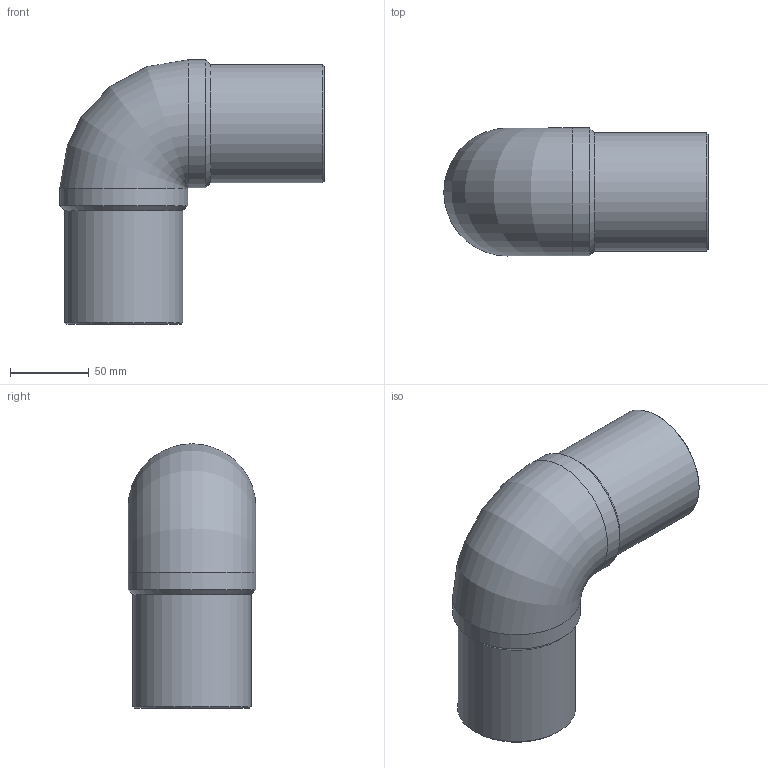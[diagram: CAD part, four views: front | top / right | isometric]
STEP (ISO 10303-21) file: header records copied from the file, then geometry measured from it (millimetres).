
FILE_DESCRIPTION(/* description */ ('Unknown'),/* implementation_level */ '2;1');
FILE_NAME(/* name */ 'G9P075H',/* time_stamp */ '2021-11-15T16:36:55+01:00',/* author */ ('Unknown'),/* organization */ ('Unknown'),/* preprocessor_version */ 'ST-DEVELOPER v16.7',/* originating_system */ 'Solid Edge',/* authorisation */ 'Unknown');
FILE_SCHEMA (('AUTOMOTIVE_DESIGN {1 0 10303 214 3 1 1}'));
Length unit declared in the file: millimetre
Products named in the file (1): G9P075H
Bounding box: 167.5 x 81 x 167.5 mm (x, y, z)
Volume: 565225.5 mm3; surface area: 102449.2 mm2
Topology: 1 solids, 1 shells, 14 faces, 34 edges, 22 vertices
Faces by surface type: cylinder 6, cone 4, plane 2, torus 2
Full cylindrical faces by diameter (mm): 54.4 x2, 75 x2, 81 x2
Entity records: 370 total; most frequent: CARTESIAN_POINT 70, DIRECTION 60, ORIENTED_EDGE 38, AXIS2_PLACEMENT_3D 30, EDGE_LOOP 27, FACE_BOUND 27, EDGE_CURVE 19, VERTEX_POINT 18
